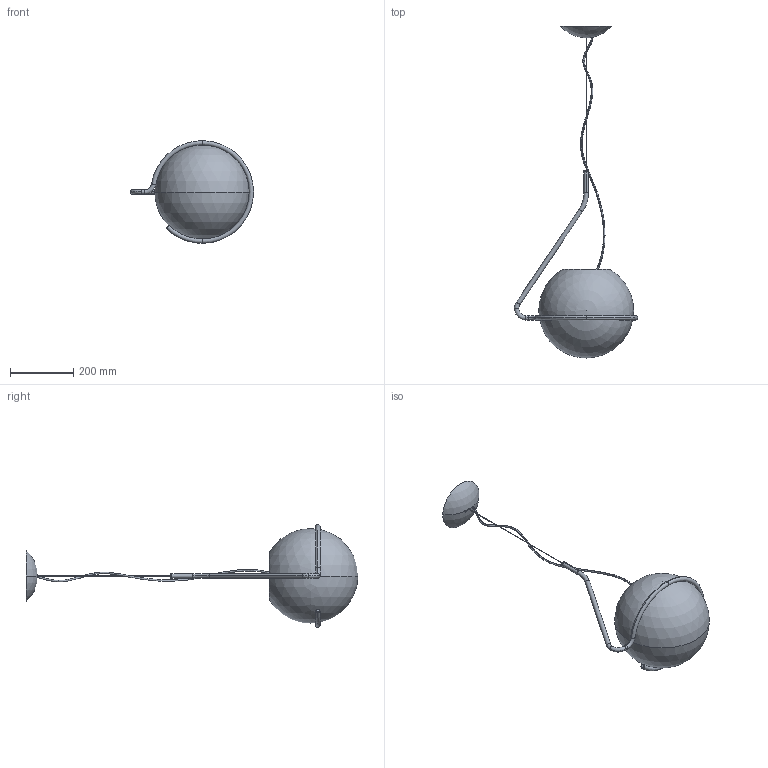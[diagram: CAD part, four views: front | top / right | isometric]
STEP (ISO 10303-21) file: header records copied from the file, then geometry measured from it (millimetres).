
FILE_DESCRIPTION (( 'STEP AP203' ), '1' );
FILE_NAME ('318_MEDIA_S_PL_3D.STEP', '2022-06-22T10:54:35', ( '' ), ( '' ), 'SwSTEP 2.0', 'SolidWorks 2022', '' );
FILE_SCHEMA (( 'CONFIG_CONTROL_DESIGN' ));
Length unit declared in the file: millimetre
Products named in the file (1): 318_MEDIA_S_PL_3D
Bounding box: 389.59 x 1050 x 325 mm (x, y, z)
Volume: 2768135.6 mm3; surface area: 666251.4 mm2
Topology: 4 solids, 4 shells, 73 faces, 169 edges, 103 vertices
Faces by surface type: torus 22, cylinder 16, plane 11, cone 10, sphere 8, bspline 6
Entity records: 4004 total; most frequent: CARTESIAN_POINT 2308, DIRECTION 382, ORIENTED_EDGE 314, AXIS2_PLACEMENT_3D 178, EDGE_CURVE 157, CIRCLE 110, VERTEX_POINT 97, EDGE_LOOP 78
